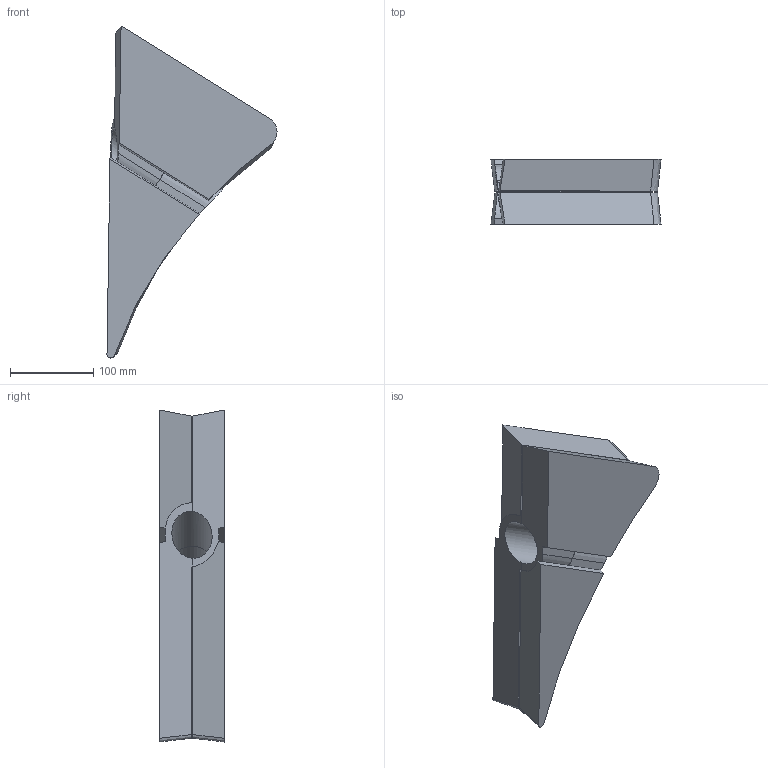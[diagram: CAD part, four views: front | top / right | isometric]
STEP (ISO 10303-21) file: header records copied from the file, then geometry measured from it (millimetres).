
FILE_DESCRIPTION(('STEP AP214'),'1');
FILE_NAME('CUNEO CHIUSO.stp','2019-09-17T09:49:18',(' '),(' '),'Spatial InterOp 3D',' ',' ');
FILE_SCHEMA(('AUTOMOTIVE_DESIGN { 1 0 10303 214 1 1 1 1 }'));
Length unit declared in the file: metre
Products named in the file (2): 1568704256; 1568713885
Bounding box: 204.79 x 78 x 399.8 mm (x, y, z)
Volume: 2448481.1 mm3; surface area: 242306.8 mm2
Topology: 2 solids, 2 shells, 66 faces, 187 edges, 123 vertices
Faces by surface type: plane 40, bspline 12, cylinder 12, cone 2
Full cylindrical faces by diameter (mm): 48.516 x1, 49 x1, 57 x1
Entity records: 9852 total; most frequent: CARTESIAN_POINT 7750, ORIENTED_EDGE 360, DIRECTION 251, EDGE_CURVE 180, VERTEX_POINT 120, LINE 97, VECTOR 97, AXIS2_PLACEMENT_3D 77
